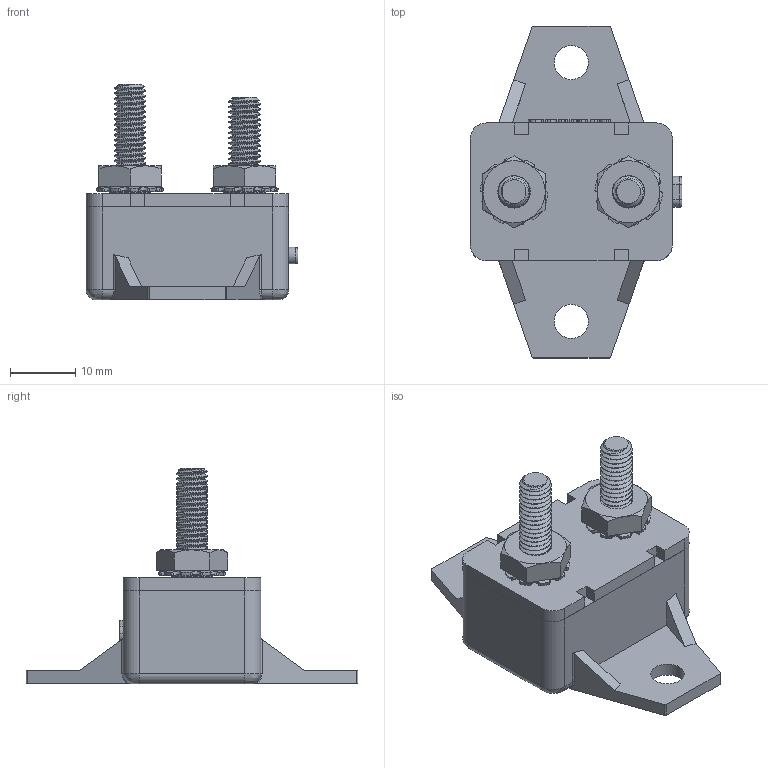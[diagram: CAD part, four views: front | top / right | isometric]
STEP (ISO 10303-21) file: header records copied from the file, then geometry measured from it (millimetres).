
FILE_DESCRIPTION(/* description */ (''),/* implementation_level */ '2;1');
FILE_NAME(/* name */ 'C:\Users\Hani\Desktop\work\MRCBP-H-Gray\MRCBP-H.stp',/* time_stamp */ '2021-08-06T14:50:08-07:00',/* author */ ('Hani'),/* organization */ (''),/* preprocessor_version */ 'ST-DEVELOPER v17',/* originating_system */ 'Autodesk Inventor 2019',/* authorisation */ '');
FILE_SCHEMA (('AUTOMOTIVE_DESIGN { 1 0 10303 214 3 1 1 }'));
Length unit declared in the file: inch
Products named in the file (4): ACBP-V; ACBP-V_1; THREADED ROD; HEX NUT WITH TOOTH WASHER
Assembly tree (5 placements, depth 2):
  ACBP-V
    ACBP-V_1
    THREADED ROD  x2
    HEX NUT WITH TOOTH WASHER  x2
Bounding box: 32.41 x 50.8 x 33.02 mm (x, y, z)
Volume: 12604.7 mm3; surface area: 7227.4 mm2
Topology: 8 solids, 8 shells, 487 faces, 1346 edges, 892 vertices
Faces by surface type: cylinder 172, plane 144, bspline 123, cone 46, torus 2
Full cylindrical faces by diameter (mm): 3.795 x46, 3.967 x6, 4.826 x52, 5.207 x2, 6.35 x2, 6.413 x2
Entity records: 17578 total; most frequent: CARTESIAN_POINT 9219, ORIENTED_EDGE 1948, DIRECTION 1336, EDGE_CURVE 974, VERTEX_POINT 644, LINE 470, VECTOR 470, AXIS2_PLACEMENT_3D 433
